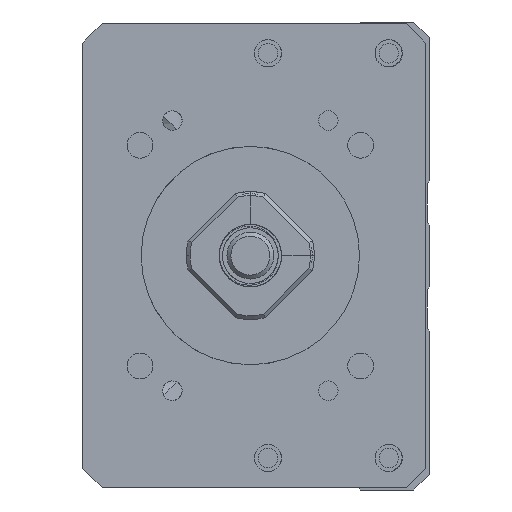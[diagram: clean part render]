
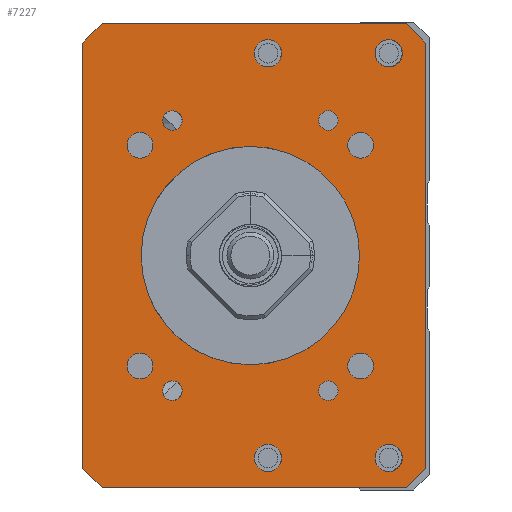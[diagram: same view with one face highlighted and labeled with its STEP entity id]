
A CAD part, left-side view. The second image highlights one B-rep face of the part: STEP entity #7227.
In plain terms, the highlighted planar face has unit normal (-1, 0, 0).
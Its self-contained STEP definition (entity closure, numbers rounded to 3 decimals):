
#4352=CIRCLE('',#14274,14.);
#4361=CIRCLE('',#14285,1.65);
#4362=CIRCLE('',#14286,1.65);
#4363=CIRCLE('',#14287,1.65);
#4364=CIRCLE('',#14288,1.65);
#4365=CIRCLE('',#14289,1.25);
#4366=CIRCLE('',#14290,1.75);
#4367=CIRCLE('',#14291,1.25);
#4368=CIRCLE('',#14292,1.75);
#4369=CIRCLE('',#14293,1.25);
#4370=CIRCLE('',#14294,1.75);
#4371=CIRCLE('',#14295,1.75);
#4372=CIRCLE('',#14296,1.25);
#4804=PLANE('',#14297);
#5604=LINE('',#18482,#6411);
#5606=LINE('',#18506,#6413);
#5607=LINE('',#18508,#6414);
#5608=LINE('',#18510,#6415);
#5609=LINE('',#18512,#6416);
#5610=LINE('',#18514,#6417);
#5611=LINE('',#18516,#6418);
#5612=LINE('',#18518,#6419);
#6411=VECTOR('',#15419,1.);
#6413=VECTOR('',#15443,1.);
#6414=VECTOR('',#15444,1.);
#6415=VECTOR('',#15445,1.);
#6416=VECTOR('',#15446,1.);
#6417=VECTOR('',#15447,1.);
#6418=VECTOR('',#15448,1.);
#6419=VECTOR('',#15449,1.);
#7227=ADVANCED_FACE('',(#8005,#8006,#8007,#8008,#8009,#8010,#8011,#8012,
#8013,#8014,#8015,#8016,#8017,#8018),#4804,.F.);
#8005=FACE_BOUND('',#8443,.T.);
#8006=FACE_BOUND('',#8444,.T.);
#8007=FACE_BOUND('',#8445,.T.);
#8008=FACE_BOUND('',#8446,.T.);
#8009=FACE_BOUND('',#8447,.T.);
#8010=FACE_BOUND('',#8448,.T.);
#8011=FACE_BOUND('',#8449,.T.);
#8012=FACE_BOUND('',#8450,.T.);
#8013=FACE_BOUND('',#8451,.T.);
#8014=FACE_BOUND('',#8452,.T.);
#8015=FACE_BOUND('',#8453,.T.);
#8016=FACE_BOUND('',#8454,.T.);
#8017=FACE_BOUND('',#8455,.T.);
#8018=FACE_BOUND('',#8456,.T.);
#8443=EDGE_LOOP('',(#9407));
#8444=EDGE_LOOP('',(#9408));
#8445=EDGE_LOOP('',(#9409));
#8446=EDGE_LOOP('',(#9410));
#8447=EDGE_LOOP('',(#9411));
#8448=EDGE_LOOP('',(#9412));
#8449=EDGE_LOOP('',(#9413));
#8450=EDGE_LOOP('',(#9414));
#8451=EDGE_LOOP('',(#9415));
#8452=EDGE_LOOP('',(#9416,#9417,#9418,#9419,#9420,#9421,#9422,#9423));
#8453=EDGE_LOOP('',(#9424));
#8454=EDGE_LOOP('',(#9425));
#8455=EDGE_LOOP('',(#9426));
#8456=EDGE_LOOP('',(#9427));
#9407=ORIENTED_EDGE('',*,*,#12896,.F.);
#9408=ORIENTED_EDGE('',*,*,#12897,.F.);
#9409=ORIENTED_EDGE('',*,*,#12898,.F.);
#9410=ORIENTED_EDGE('',*,*,#12899,.F.);
#9411=ORIENTED_EDGE('',*,*,#12900,.F.);
#9412=ORIENTED_EDGE('',*,*,#12901,.T.);
#9413=ORIENTED_EDGE('',*,*,#12902,.F.);
#9414=ORIENTED_EDGE('',*,*,#12903,.F.);
#9415=ORIENTED_EDGE('',*,*,#12904,.F.);
#9416=ORIENTED_EDGE('',*,*,#12893,.T.);
#9417=ORIENTED_EDGE('',*,*,#12905,.T.);
#9418=ORIENTED_EDGE('',*,*,#12906,.F.);
#9419=ORIENTED_EDGE('',*,*,#12907,.T.);
#9420=ORIENTED_EDGE('',*,*,#12908,.F.);
#9421=ORIENTED_EDGE('',*,*,#12909,.T.);
#9422=ORIENTED_EDGE('',*,*,#12910,.T.);
#9423=ORIENTED_EDGE('',*,*,#12911,.T.);
#9424=ORIENTED_EDGE('',*,*,#12912,.F.);
#9425=ORIENTED_EDGE('',*,*,#12913,.F.);
#9426=ORIENTED_EDGE('',*,*,#12914,.F.);
#9427=ORIENTED_EDGE('',*,*,#12873,.F.);
#11912=VERTEX_POINT('',#18421);
#11932=VERTEX_POINT('',#18481);
#11933=VERTEX_POINT('',#18483);
#11935=VERTEX_POINT('',#18489);
#11936=VERTEX_POINT('',#18491);
#11937=VERTEX_POINT('',#18493);
#11938=VERTEX_POINT('',#18495);
#11939=VERTEX_POINT('',#18497);
#11940=VERTEX_POINT('',#18499);
#11941=VERTEX_POINT('',#18501);
#11942=VERTEX_POINT('',#18503);
#11943=VERTEX_POINT('',#18505);
#11944=VERTEX_POINT('',#18507);
#11945=VERTEX_POINT('',#18509);
#11946=VERTEX_POINT('',#18511);
#11947=VERTEX_POINT('',#18513);
#11948=VERTEX_POINT('',#18515);
#11949=VERTEX_POINT('',#18517);
#11950=VERTEX_POINT('',#18520);
#11951=VERTEX_POINT('',#18522);
#11952=VERTEX_POINT('',#18524);
#12873=EDGE_CURVE('',#11912,#11912,#4352,.T.);
#12893=EDGE_CURVE('',#11933,#11932,#5604,.T.);
#12896=EDGE_CURVE('',#11935,#11935,#4361,.T.);
#12897=EDGE_CURVE('',#11936,#11936,#4362,.T.);
#12898=EDGE_CURVE('',#11937,#11937,#4363,.T.);
#12899=EDGE_CURVE('',#11938,#11938,#4364,.T.);
#12900=EDGE_CURVE('',#11939,#11939,#4365,.T.);
#12901=EDGE_CURVE('',#11940,#11940,#4366,.T.);
#12902=EDGE_CURVE('',#11941,#11941,#4367,.T.);
#12903=EDGE_CURVE('',#11942,#11942,#4368,.T.);
#12904=EDGE_CURVE('',#11943,#11943,#4369,.T.);
#12905=EDGE_CURVE('',#11932,#11944,#5606,.T.);
#12906=EDGE_CURVE('',#11945,#11944,#5607,.T.);
#12907=EDGE_CURVE('',#11945,#11946,#5608,.T.);
#12908=EDGE_CURVE('',#11947,#11946,#5609,.T.);
#12909=EDGE_CURVE('',#11947,#11948,#5610,.T.);
#12910=EDGE_CURVE('',#11948,#11949,#5611,.T.);
#12911=EDGE_CURVE('',#11949,#11933,#5612,.T.);
#12912=EDGE_CURVE('',#11950,#11950,#4370,.T.);
#12913=EDGE_CURVE('',#11951,#11951,#4371,.T.);
#12914=EDGE_CURVE('',#11952,#11952,#4372,.T.);
#14274=AXIS2_PLACEMENT_3D('',#18420,#15393,#15394);
#14285=AXIS2_PLACEMENT_3D('',#18488,#15425,#15426);
#14286=AXIS2_PLACEMENT_3D('',#18490,#15427,#15428);
#14287=AXIS2_PLACEMENT_3D('',#18492,#15429,#15430);
#14288=AXIS2_PLACEMENT_3D('',#18494,#15431,#15432);
#14289=AXIS2_PLACEMENT_3D('',#18496,#15433,#15434);
#14290=AXIS2_PLACEMENT_3D('',#18498,#15435,#15436);
#14291=AXIS2_PLACEMENT_3D('',#18500,#15437,#15438);
#14292=AXIS2_PLACEMENT_3D('',#18502,#15439,#15440);
#14293=AXIS2_PLACEMENT_3D('',#18504,#15441,#15442);
#14294=AXIS2_PLACEMENT_3D('',#18519,#15450,#15451);
#14295=AXIS2_PLACEMENT_3D('',#18521,#15452,#15453);
#14296=AXIS2_PLACEMENT_3D('',#18523,#15454,#15455);
#14297=AXIS2_PLACEMENT_3D('',#18525,#15456,#15457);
#15393=DIRECTION('',(-1.,0.,0.));
#15394=DIRECTION('',(0.,1.,0.));
#15419=DIRECTION('',(0.,0.,-1.));
#15425=DIRECTION('',(-1.,0.,0.));
#15426=DIRECTION('',(0.,0.,1.));
#15427=DIRECTION('',(-1.,0.,0.));
#15428=DIRECTION('',(0.,0.,1.));
#15429=DIRECTION('',(-1.,0.,0.));
#15430=DIRECTION('',(0.,0.,1.));
#15431=DIRECTION('',(-1.,0.,0.));
#15432=DIRECTION('',(0.,0.,1.));
#15433=DIRECTION('',(-1.,0.,0.));
#15434=DIRECTION('',(0.,1.,0.));
#15435=DIRECTION('',(1.,0.,0.));
#15436=DIRECTION('',(0.,0.,1.));
#15437=DIRECTION('',(-1.,0.,0.));
#15438=DIRECTION('',(0.,1.,0.));
#15439=DIRECTION('',(-1.,0.,0.));
#15440=DIRECTION('',(0.,0.,1.));
#15441=DIRECTION('',(-1.,0.,0.));
#15442=DIRECTION('',(0.,1.,0.));
#15443=DIRECTION('',(0.,-0.707,-0.707));
#15444=DIRECTION('',(0.,1.,0.));
#15445=DIRECTION('',(0.,-0.707,0.707));
#15446=DIRECTION('',(0.,0.,-1.));
#15447=DIRECTION('',(0.,0.707,0.707));
#15448=DIRECTION('',(0.,1.,0.));
#15449=DIRECTION('',(0.,0.707,-0.707));
#15450=DIRECTION('',(-1.,0.,0.));
#15451=DIRECTION('',(0.,0.,1.));
#15452=DIRECTION('',(-1.,0.,0.));
#15453=DIRECTION('',(0.,0.,1.));
#15454=DIRECTION('',(-1.,0.,0.));
#15455=DIRECTION('',(0.,1.,0.));
#15456=DIRECTION('',(1.,0.,0.));
#15457=DIRECTION('',(0.,1.,0.));
#18420=CARTESIAN_POINT('',(-211.,0.,-300.));
#18421=CARTESIAN_POINT('',(-211.,14.,-300.));
#18481=CARTESIAN_POINT('',(-211.,21.499,-327.25));
#18482=CARTESIAN_POINT('',(-211.,21.499,-270.25));
#18483=CARTESIAN_POINT('',(-211.,21.499,-272.75));
#18488=CARTESIAN_POINT('',(-211.,14.142,-285.858));
#18489=CARTESIAN_POINT('',(-211.,14.142,-284.208));
#18490=CARTESIAN_POINT('',(-211.,-14.142,-285.858));
#18491=CARTESIAN_POINT('',(-211.,-14.142,-284.208));
#18492=CARTESIAN_POINT('',(-211.,14.142,-314.142));
#18493=CARTESIAN_POINT('',(-211.,14.142,-312.492));
#18494=CARTESIAN_POINT('',(-211.,-14.142,-314.142));
#18495=CARTESIAN_POINT('',(-211.,-14.142,-312.492));
#18496=CARTESIAN_POINT('',(-211.,-10.,-317.321));
#18497=CARTESIAN_POINT('',(-211.,-8.75,-317.321));
#18498=CARTESIAN_POINT('',(-211.,-2.25,-325.936));
#18499=CARTESIAN_POINT('',(-211.,-2.25,-324.186));
#18500=CARTESIAN_POINT('',(-211.,10.,-282.679));
#18501=CARTESIAN_POINT('',(-211.,11.25,-282.679));
#18502=CARTESIAN_POINT('',(-211.,-2.25,-274.064));
#18503=CARTESIAN_POINT('',(-211.,-2.25,-272.314));
#18504=CARTESIAN_POINT('',(-211.,10.,-317.321));
#18505=CARTESIAN_POINT('',(-211.,11.25,-317.321));
#18506=CARTESIAN_POINT('',(-211.,18.999,-329.75));
#18507=CARTESIAN_POINT('',(-211.,18.999,-329.75));
#18508=CARTESIAN_POINT('',(-211.,-22.501,-329.75));
#18509=CARTESIAN_POINT('',(-211.,-20.001,-329.75));
#18510=CARTESIAN_POINT('',(-211.,-22.501,-327.25));
#18511=CARTESIAN_POINT('',(-211.,-22.501,-327.25));
#18512=CARTESIAN_POINT('',(-211.,-22.501,-270.25));
#18513=CARTESIAN_POINT('',(-211.,-22.501,-272.75));
#18514=CARTESIAN_POINT('',(-211.,-22.501,-272.75));
#18515=CARTESIAN_POINT('',(-211.,-20.001,-270.25));
#18516=CARTESIAN_POINT('',(-211.,-22.501,-270.25));
#18517=CARTESIAN_POINT('',(-211.,18.999,-270.25));
#18518=CARTESIAN_POINT('',(-211.,18.999,-270.25));
#18519=CARTESIAN_POINT('',(-211.,-17.75,-274.064));
#18520=CARTESIAN_POINT('',(-211.,-17.75,-272.314));
#18521=CARTESIAN_POINT('',(-211.,-17.75,-325.936));
#18522=CARTESIAN_POINT('',(-211.,-17.75,-324.186));
#18523=CARTESIAN_POINT('',(-211.,-10.,-282.679));
#18524=CARTESIAN_POINT('',(-211.,-8.75,-282.679));
#18525=CARTESIAN_POINT('',(-211.,-22.501,-270.25));
